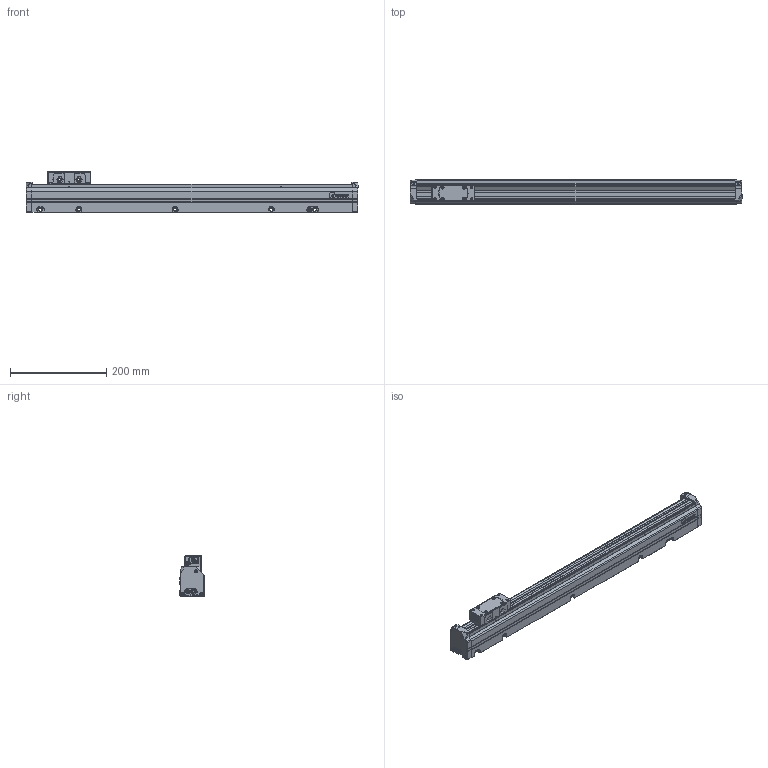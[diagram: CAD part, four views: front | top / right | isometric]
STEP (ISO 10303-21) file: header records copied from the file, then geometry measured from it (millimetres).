
FILE_DESCRIPTION(('Creo Elements/Direct Modeling STEP Export'),'2;1');
FILE_NAME('REGLA_L3_440_M_T.stp','2020-12-16T 8:59:59',(''),(''),'Creo Elements/Direct Modeling STEP processor for AP214 (Solid Model)','Creo Elements/Direct Modeling 19.0G 27-Nov-2017 (C) Parametric Technology GmbH','');
FILE_SCHEMA(('AUTOMOTIVE_DESIGN { 1 0 10303 214 1 1 1 1 }'));
Length unit declared in the file: millimetre
Products named in the file (3): CABEZA_L3_T; REGLA_L3_440_M; REGLA_L3_440_M_T
Assembly tree (2 placements, depth 2):
  REGLA_L3_440_M_T
    REGLA_L3_440_M
    CABEZA_L3_T
Bounding box: 690 x 50 x 85 mm (x, y, z)
Volume: 1862672.5 mm3; surface area: 202233.7 mm2
Topology: 2 solids, 2 shells, 1427 faces, 3785 edges, 2434 vertices
Faces by surface type: plane 696, cylinder 445, cone 163, bspline 63, torus 52, extrusion 6, sphere 2
Entity records: 63647 total; most frequent: CARTESIAN_POINT 23356, ORIENTED_EDGE 7546, DIRECTION 6685, EDGE_CURVE 3773, VERTEX_POINT 2434, AXIS2_PLACEMENT_3D 2256, VECTOR 2173, LINE 2167
